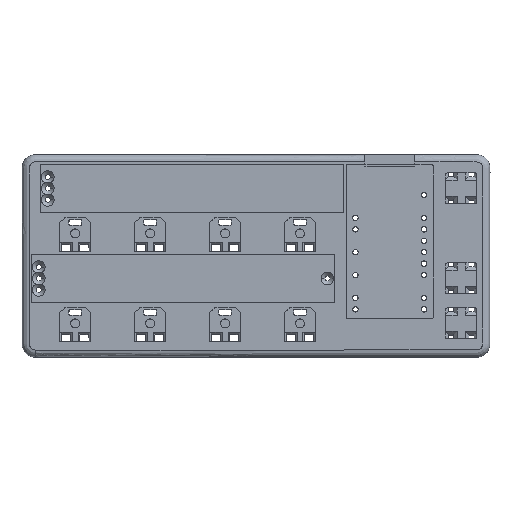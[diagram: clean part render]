
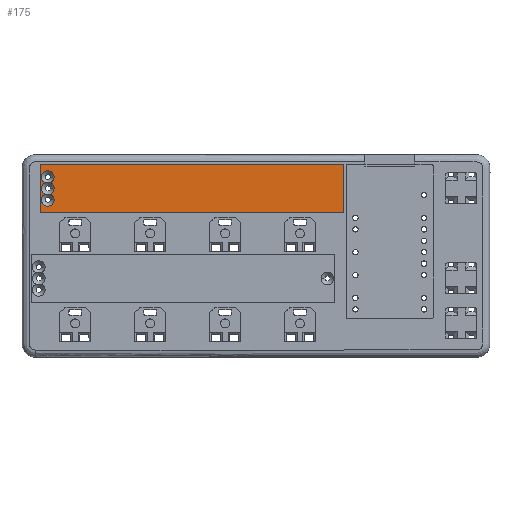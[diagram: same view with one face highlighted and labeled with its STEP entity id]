
A CAD part, top view. The second image highlights one B-rep face of the part: STEP entity #175.
In plain terms, the highlighted planar face has unit normal (0, 0, 1).
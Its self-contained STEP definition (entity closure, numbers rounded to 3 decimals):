
#22=FACE_BOUND($,#2160,.T.);
#175=ADVANCED_FACE($,(#1163,#22),#13902,.T.);
#1163=FACE_OUTER_BOUND($,#2159,.T.);
#2159=EDGE_LOOP($,(#3542,#3543));
#2160=EDGE_LOOP($,(#3544,#3545,#3546,#3547,#3548,#3549,#3550));
#3542=ORIENTED_EDGE($,*,*,#9026,.T.);
#3543=ORIENTED_EDGE($,*,*,#11431,.T.);
#3544=ORIENTED_EDGE($,*,*,#9022,.T.);
#3545=ORIENTED_EDGE($,*,*,#9024,.T.);
#3546=ORIENTED_EDGE($,*,*,#9023,.T.);
#3547=ORIENTED_EDGE($,*,*,#9021,.T.);
#3548=ORIENTED_EDGE($,*,*,#9019,.T.);
#3549=ORIENTED_EDGE($,*,*,#9020,.F.);
#3550=ORIENTED_EDGE($,*,*,#9025,.F.);
#9019=EDGE_CURVE($,#11768,#11769,#14432,.T.);
#9020=EDGE_CURVE($,#11770,#11769,#14433,.T.);
#9021=EDGE_CURVE($,#11771,#11768,#14434,.T.);
#9022=EDGE_CURVE($,#11772,#11773,#14435,.T.);
#9023=EDGE_CURVE($,#11774,#11771,#14436,.T.);
#9024=EDGE_CURVE($,#11773,#11774,#14437,.T.);
#9025=EDGE_CURVE($,#11772,#11770,#14438,.T.);
#9026=EDGE_CURVE($,#11775,#13291,#14439,.T.);
#11431=EDGE_CURVE($,#13291,#11775,#14797,.T.);
#11768=VERTEX_POINT($,#51715);
#11769=VERTEX_POINT($,#51716);
#11770=VERTEX_POINT($,#51717);
#11771=VERTEX_POINT($,#51718);
#11772=VERTEX_POINT($,#51719);
#11773=VERTEX_POINT($,#51720);
#11774=VERTEX_POINT($,#51721);
#11775=VERTEX_POINT($,#51722);
#13291=VERTEX_POINT($,#53238);
#13902=PLANE($,#17375);
#14432=(
BOUNDED_CURVE()
B_SPLINE_CURVE(2,(#19825,#19826,#19827),.UNSPECIFIED.,.F.,.F.)
B_SPLINE_CURVE_WITH_KNOTS((3,3),(0.,1.591),.UNSPECIFIED.)
CURVE()
GEOMETRIC_REPRESENTATION_ITEM()
RATIONAL_B_SPLINE_CURVE((1.,0.843,1.))
REPRESENTATION_ITEM($)
);
#14433=(
BOUNDED_CURVE()
B_SPLINE_CURVE(2,(#19828,#19829,#19830),.UNSPECIFIED.,.F.,.F.)
B_SPLINE_CURVE_WITH_KNOTS((3,3),(0.,1.591),.UNSPECIFIED.)
CURVE()
GEOMETRIC_REPRESENTATION_ITEM()
RATIONAL_B_SPLINE_CURVE((1.,0.843,1.))
REPRESENTATION_ITEM($)
);
#14434=(
BOUNDED_CURVE()
B_SPLINE_CURVE(2,(#19831,#19832,#19833),.UNSPECIFIED.,.F.,.F.)
B_SPLINE_CURVE_WITH_KNOTS((3,3),(0.,1.591),.UNSPECIFIED.)
CURVE()
GEOMETRIC_REPRESENTATION_ITEM()
RATIONAL_B_SPLINE_CURVE((1.,0.843,1.))
REPRESENTATION_ITEM($)
);
#14435=(
BOUNDED_CURVE()
B_SPLINE_CURVE(2,(#19834,#19835,#19836,#19837,#19838),.UNSPECIFIED.,.F.,
.F.)
B_SPLINE_CURVE_WITH_KNOTS((3,2,3),(0.,1.591,3.182),
.UNSPECIFIED.)
CURVE()
GEOMETRIC_REPRESENTATION_ITEM()
RATIONAL_B_SPLINE_CURVE((1.,0.843,1.,0.843,1.))
REPRESENTATION_ITEM($)
);
#14436=(
BOUNDED_CURVE()
B_SPLINE_CURVE(2,(#19839,#19840,#19841),.UNSPECIFIED.,.F.,.F.)
B_SPLINE_CURVE_WITH_KNOTS((3,3),(0.,1.591),.UNSPECIFIED.)
CURVE()
GEOMETRIC_REPRESENTATION_ITEM()
RATIONAL_B_SPLINE_CURVE((1.,0.843,1.))
REPRESENTATION_ITEM($)
);
#14437=(
BOUNDED_CURVE()
B_SPLINE_CURVE(2,(#19842,#19843,#19844,#19845,#19846,#19847,#19848),.UNSPECIFIED.,
.F.,.F.)
B_SPLINE_CURVE_WITH_KNOTS((3,2,2,3),(0.,1.576,3.782,
5.988),.UNSPECIFIED.)
CURVE()
GEOMETRIC_REPRESENTATION_ITEM()
RATIONAL_B_SPLINE_CURVE((1.,0.843,1.,0.707,1.,0.707,
1.))
REPRESENTATION_ITEM($)
);
#14438=(
BOUNDED_CURVE()
B_SPLINE_CURVE(2,(#19849,#19850,#19851,#19852,#19853,#19854,#19855),.UNSPECIFIED.,
.F.,.F.)
B_SPLINE_CURVE_WITH_KNOTS((3,2,2,3),(0.,1.576,3.782,
5.988),.UNSPECIFIED.)
CURVE()
GEOMETRIC_REPRESENTATION_ITEM()
RATIONAL_B_SPLINE_CURVE((1.,0.843,1.,0.707,1.,0.707,
1.))
REPRESENTATION_ITEM($)
);
#14439=(
BOUNDED_CURVE()
B_SPLINE_CURVE(2,(#19856,#19857,#19858,#19859,#19860,#19861,#19862,#19863,
#19864),.UNSPECIFIED.,.F.,.F.)
B_SPLINE_CURVE_WITH_KNOTS((3,2,2,2,3),(0.,66.64,67.44,77.44,78.24),.UNSPECIFIED.)
CURVE()
GEOMETRIC_REPRESENTATION_ITEM()
RATIONAL_B_SPLINE_CURVE((1.,1.,1.,0.707,1.,1.,1.,0.707,
1.))
REPRESENTATION_ITEM($)
);
#14797=(
BOUNDED_CURVE()
B_SPLINE_CURVE(2,(#36645,#36646,#36647,#36648,#36649,#36650,#36651,#36652,
#36653),.UNSPECIFIED.,.F.,.F.)
B_SPLINE_CURVE_WITH_KNOTS((3,2,2,2,3),(78.24,144.88,145.68,155.68,156.48),
.UNSPECIFIED.)
CURVE()
GEOMETRIC_REPRESENTATION_ITEM()
RATIONAL_B_SPLINE_CURVE((1.,1.,1.,0.707,1.,1.,1.,0.707,
1.))
REPRESENTATION_ITEM($)
);
#17375=AXIS2_PLACEMENT_3D($,#38750,#17935,$);
#17935=DIRECTION($,(0.,0.,1.));
#19825=CARTESIAN_POINT($,(54.33,37.5,3.5));
#19826=CARTESIAN_POINT($,(54.33,38.394,3.5));
#19827=CARTESIAN_POINT($,(55.14,38.77,3.5));
#19828=CARTESIAN_POINT($,(54.33,40.04,3.5));
#19829=CARTESIAN_POINT($,(54.33,39.146,3.5));
#19830=CARTESIAN_POINT($,(55.14,38.77,3.5));
#19831=CARTESIAN_POINT($,(55.14,36.23,3.5));
#19832=CARTESIAN_POINT($,(54.33,36.606,3.5));
#19833=CARTESIAN_POINT($,(54.33,37.5,3.5));
#19834=CARTESIAN_POINT($,(56.319,38.77,3.5));
#19835=CARTESIAN_POINT($,(57.13,38.394,3.5));
#19836=CARTESIAN_POINT($,(57.13,37.5,3.5));
#19837=CARTESIAN_POINT($,(57.13,36.606,3.5));
#19838=CARTESIAN_POINT($,(56.319,36.23,3.5));
#19839=CARTESIAN_POINT($,(54.33,34.96,3.5));
#19840=CARTESIAN_POINT($,(54.33,35.854,3.5));
#19841=CARTESIAN_POINT($,(55.14,36.23,3.5));
#19842=CARTESIAN_POINT($,(56.319,36.23,3.5));
#19843=CARTESIAN_POINT($,(57.13,35.854,3.5));
#19844=CARTESIAN_POINT($,(57.13,34.96,3.5));
#19845=CARTESIAN_POINT($,(57.13,33.56,3.5));
#19846=CARTESIAN_POINT($,(55.73,33.56,3.5));
#19847=CARTESIAN_POINT($,(54.33,33.56,3.5));
#19848=CARTESIAN_POINT($,(54.33,34.96,3.5));
#19849=CARTESIAN_POINT($,(56.319,38.77,3.5));
#19850=CARTESIAN_POINT($,(57.13,39.146,3.5));
#19851=CARTESIAN_POINT($,(57.13,40.04,3.5));
#19852=CARTESIAN_POINT($,(57.13,41.44,3.5));
#19853=CARTESIAN_POINT($,(55.73,41.44,3.5));
#19854=CARTESIAN_POINT($,(54.33,41.44,3.5));
#19855=CARTESIAN_POINT($,(54.33,40.04,3.5));
#19856=CARTESIAN_POINT($,(54.48,32.1,3.5));
#19857=CARTESIAN_POINT($,(87.8,32.1,3.5));
#19858=CARTESIAN_POINT($,(121.12,32.1,3.5));
#19859=CARTESIAN_POINT($,(121.52,32.1,3.5));
#19860=CARTESIAN_POINT($,(121.52,32.5,3.5));
#19861=CARTESIAN_POINT($,(121.52,37.5,3.5));
#19862=CARTESIAN_POINT($,(121.52,42.5,3.5));
#19863=CARTESIAN_POINT($,(121.52,42.9,3.5));
#19864=CARTESIAN_POINT($,(121.12,42.9,3.5));
#36645=CARTESIAN_POINT($,(121.12,42.9,3.5));
#36646=CARTESIAN_POINT($,(87.8,42.9,3.5));
#36647=CARTESIAN_POINT($,(54.48,42.9,3.5));
#36648=CARTESIAN_POINT($,(54.08,42.9,3.5));
#36649=CARTESIAN_POINT($,(54.08,42.5,3.5));
#36650=CARTESIAN_POINT($,(54.08,37.5,3.5));
#36651=CARTESIAN_POINT($,(54.08,32.5,3.5));
#36652=CARTESIAN_POINT($,(54.08,32.1,3.5));
#36653=CARTESIAN_POINT($,(54.48,32.1,3.5));
#38750=CARTESIAN_POINT($,(54.08,32.1,3.5));
#51715=CARTESIAN_POINT($,(54.33,37.5,3.5));
#51716=CARTESIAN_POINT($,(55.14,38.77,3.5));
#51717=CARTESIAN_POINT($,(54.33,40.04,3.5));
#51718=CARTESIAN_POINT($,(55.14,36.23,3.5));
#51719=CARTESIAN_POINT($,(56.319,38.77,3.5));
#51720=CARTESIAN_POINT($,(56.319,36.23,3.5));
#51721=CARTESIAN_POINT($,(54.33,34.96,3.5));
#51722=CARTESIAN_POINT($,(54.48,32.1,3.5));
#53238=CARTESIAN_POINT($,(121.12,42.9,3.5));
